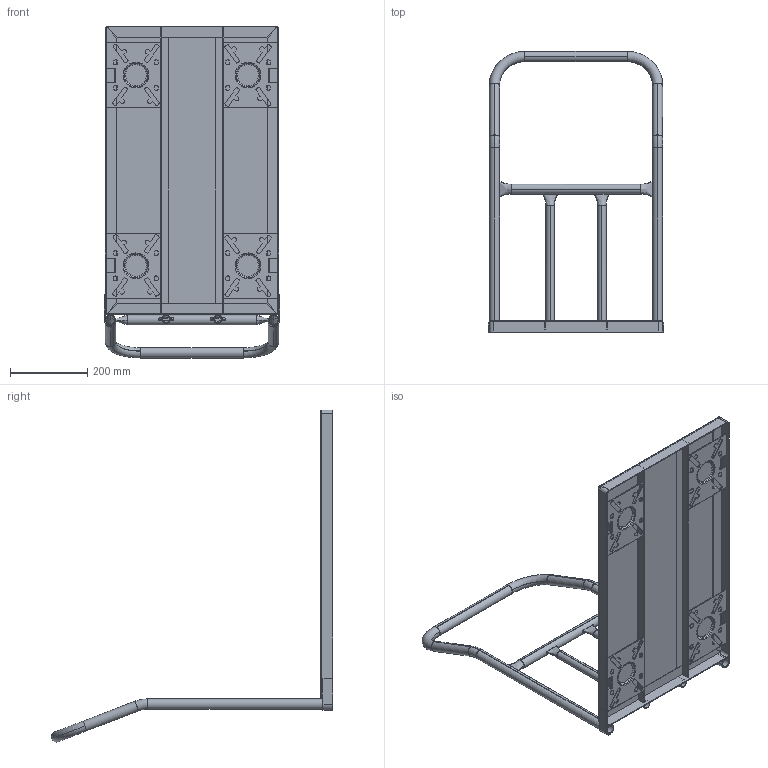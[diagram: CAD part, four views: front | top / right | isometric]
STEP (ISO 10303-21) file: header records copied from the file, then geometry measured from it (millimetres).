
FILE_DESCRIPTION (( 'STEP AP203' ), '1' );
FILE_NAME ('四輪車萬用空台.STEP', '2024-09-16T02:36:51', ( '' ), ( '' ), 'SwSTEP 2.0', 'SolidWorks 2019', '' );
FILE_SCHEMA (( 'CONFIG_CONTROL_DESIGN' ));
Length unit declared in the file: millimetre
Products named in the file (9): 230411010013_預設<機器加工>; 31402202307; 四輪車萬用空台; 230411010003; 230411010007; 230411010005; 31101245002; 230411020084; 230411010010_預設<機器加工>
Assembly tree (14 placements, depth 2):
  四輪車萬用空台
    230411010010_預設<機器加工>
    31402202307  x2
    230411010013_預設<機器加工>  x2
    230411010005
    230411020084  x4
    230411010007  x2
    31101245002
    230411010003
Bounding box: 455 x 729.99 x 861.92 mm (x, y, z)
Volume: 1376512.5 mm3; surface area: 1720287 mm2
Topology: 14 solids, 14 shells, 484 faces, 1292 edges, 844 vertices
Faces by surface type: plane 260, cylinder 160, torus 48, bspline 16
Entity records: 33018 total; most frequent: CARTESIAN_POINT 26638, DIRECTION 1122, ORIENTED_EDGE 1092, EDGE_CURVE 546, AXIS2_PLACEMENT_3D 407, VERTEX_POINT 356, LINE 308, VECTOR 308
